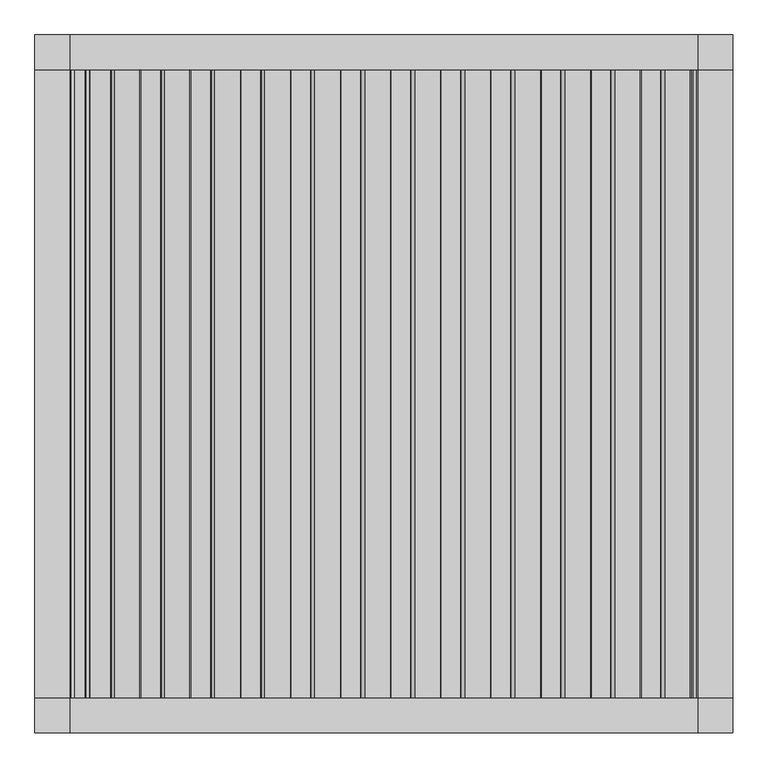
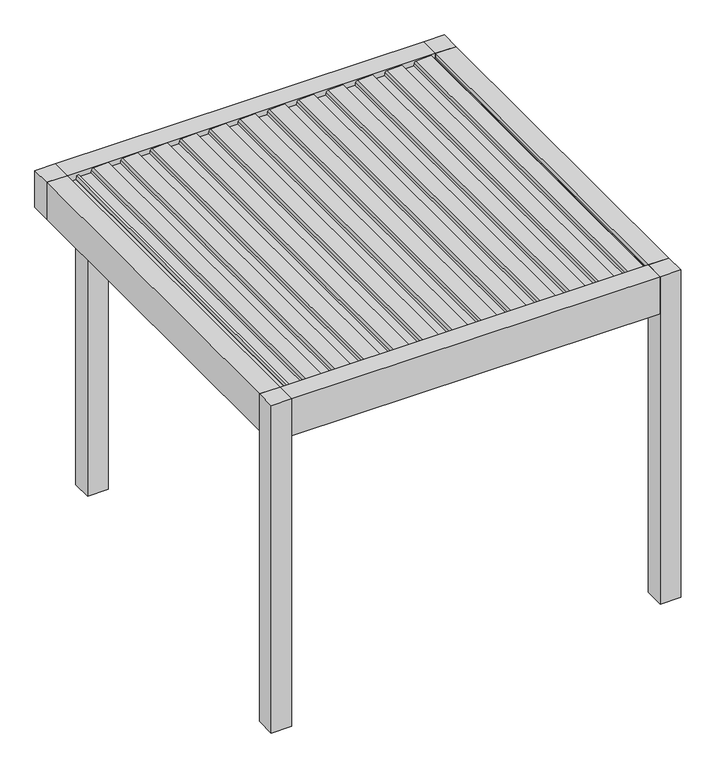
"""IFC4 building model written with IfcOpenShell, lengths in millimetres: proxy geometry, Renson_Amani_Patio_Cover : Renson_Amani_Patio_Cover."""

from ifc_helpers import new_model, si_unit, point, frame, frame_2d, origin, origin_with_axes, place, context, project, spatial, polyline, circle_curve, trimmed, segment, composite_curve, outline, extrude, source, transform, mapped, element, save


def generic_models_adf1df4a(model_context):
    return source(origin(), model_context, "Body", "SweptSolid", [
        extrude(outline(composite_curve([segment(polyline([(2483.35, 1073.7289238), (2511.01198, 1076.1490335), (2512.3970364, 1104.984284), (2531.8911096, 1101.5469529), (2526.6075693, 991.549838)]), True, "CONTINUOUS"), segment(trimmed(circle_curve(frame_2d((2511.6248435, 992.26951)), 15.0), [point((2526.6075693, 991.549838))], [point((2514.2295662, 977.4973937))], False, "CARTESIAN"), True, "CONTINUOUS"), segment(polyline([(2514.2295662, 977.4973937), (2495.0, 974.1067023), (2495.0, 886.3709263), (2512.0788237, 883.3594689), (2511.3450182, 868.0824984), (2483.35, 865.6332517), (2483.35, 1073.7289238)]), True, "CONTINUOUS")], self_intersect=False)), frame((0.0, -1350.0, 0.0), z_axis=(0.0, 1.0, 0.0), x_axis=(0.0, 0.0, 1.0)), (0.0, 0.0, 1.0), 2700.0),
        extrude(outline(composite_curve([segment(polyline([(2483.35, 858.7132078), (2511.01198, 861.1333174), (2512.3970364, 889.9685679), (2531.8911096, 886.5312368), (2526.6075693, 776.534122)]), True, "CONTINUOUS"), segment(trimmed(circle_curve(frame_2d((2511.6248435, 777.2537939)), 15.0), [point((2526.6075693, 776.534122))], [point((2514.2295662, 762.4816776))], False, "CARTESIAN"), True, "CONTINUOUS"), segment(polyline([(2514.2295662, 762.4816776), (2495.0, 759.0909863), (2495.0, 671.3552102), (2512.0788237, 668.3437528), (2511.3450182, 653.0667824), (2483.35, 650.6175356), (2483.35, 858.7132078)]), True, "CONTINUOUS")], self_intersect=False)), frame((0.0, -1350.0, 0.0), z_axis=(0.0, 1.0, 0.0), x_axis=(0.0, 0.0, 1.0)), (0.0, 0.0, 1.0), 2700.0),
        extrude(outline(composite_curve([segment(polyline([(2483.35, 643.6974917), (2511.01198, 646.1176014), (2512.3970364, 674.9528519), (2531.8911096, 671.5155208), (2526.6075693, 561.5184059)]), True, "CONTINUOUS"), segment(trimmed(circle_curve(frame_2d((2511.6248435, 562.2380779)), 15.0), [point((2526.6075693, 561.5184059))], [point((2514.2295662, 547.4659616))], False, "CARTESIAN"), True, "CONTINUOUS"), segment(polyline([(2514.2295662, 547.4659616), (2495.0, 544.0752702), (2495.0, 456.3394942), (2512.0788237, 453.3280368), (2511.3450182, 438.0510663), (2483.35, 435.6018196), (2483.35, 643.6974917)]), True, "CONTINUOUS")], self_intersect=False)), frame((0.0, -1350.0, 0.0), z_axis=(0.0, 1.0, 0.0), x_axis=(0.0, 0.0, 1.0)), (0.0, 0.0, 1.0), 2700.0),
        extrude(outline(composite_curve([segment(polyline([(2483.35, 428.6817757), (2511.01198, 431.1018854), (2512.3970364, 459.9371358), (2531.8911096, 456.4998047), (2526.6075693, 346.5026899)]), True, "CONTINUOUS"), segment(trimmed(circle_curve(frame_2d((2511.6248435, 347.2223618)), 15.0), [point((2526.6075693, 346.5026899))], [point((2514.2295662, 332.4502455))], False, "CARTESIAN"), True, "CONTINUOUS"), segment(polyline([(2514.2295662, 332.4502455), (2495.0, 329.0595542), (2495.0, 241.3237782), (2512.0788237, 238.3123207), (2511.3450182, 223.0353503), (2483.35, 220.5861035), (2483.35, 428.6817757)]), True, "CONTINUOUS")], self_intersect=False)), frame((0.0, -1350.0, 0.0), z_axis=(0.0, 1.0, 0.0), x_axis=(0.0, 0.0, 1.0)), (0.0, 0.0, 1.0), 2700.0),
        extrude(outline(composite_curve([segment(polyline([(2483.35, 213.6660597), (2511.01198, 216.0861693), (2512.3970364, 244.9214198), (2531.8911096, 241.4840887), (2526.6075693, 131.4869738)]), True, "CONTINUOUS"), segment(trimmed(circle_curve(frame_2d((2511.6248435, 132.2066458)), 15.0), [point((2526.6075693, 131.4869738))], [point((2514.2295662, 117.4345295))], False, "CARTESIAN"), True, "CONTINUOUS"), segment(polyline([(2514.2295662, 117.4345295), (2495.0, 114.0438381), (2495.0, 26.3080621), (2512.0788237, 23.2966047), (2511.3450182, 8.0196342), (2483.35, 5.5703875), (2483.35, 213.6660597)]), True, "CONTINUOUS")], self_intersect=False)), frame((0.0, -1350.0, 0.0), z_axis=(0.0, 1.0, 0.0), x_axis=(0.0, 0.0, 1.0)), (0.0, 0.0, 1.0), 2700.0),
        extrude(outline(composite_curve([segment(polyline([(2483.35, -1.3496564), (2511.01198, 1.0704533), (2512.3970364, 29.9057037), (2531.8911096, 26.4683726), (2526.6075693, -83.5287422)]), True, "CONTINUOUS"), segment(trimmed(circle_curve(frame_2d((2511.6248435, -82.8090703)), 15.0), [point((2526.6075693, -83.5287422))], [point((2514.2295662, -97.5811866))], False, "CARTESIAN"), True, "CONTINUOUS"), segment(polyline([(2514.2295662, -97.5811866), (2495.0, -100.9718779), (2495.0, -188.7076539), (2512.0788237, -191.7191114), (2511.3450182, -206.9960818), (2483.35, -209.4453286), (2483.35, -1.3496564)]), True, "CONTINUOUS")], self_intersect=False)), frame((0.0, -1350.0, 0.0), z_axis=(0.0, 1.0, 0.0), x_axis=(0.0, 0.0, 1.0)), (0.0, 0.0, 1.0), 2700.0),
        extrude(outline(composite_curve([segment(polyline([(2483.35, -216.3653724), (2511.01198, -213.9452628), (2512.3970364, -185.1100123), (2531.8911096, -188.5473434), (2526.6075693, -298.5444582)]), True, "CONTINUOUS"), segment(trimmed(circle_curve(frame_2d((2511.6248435, -297.8247863)), 15.0), [point((2526.6075693, -298.5444582))], [point((2514.2295662, -312.5969026))], False, "CARTESIAN"), True, "CONTINUOUS"), segment(polyline([(2514.2295662, -312.5969026), (2495.0, -315.987594), (2495.0, -403.72337), (2512.0788237, -406.7348274), (2511.3450182, -422.0117979), (2483.35, -424.4610446), (2483.35, -216.3653724)]), True, "CONTINUOUS")], self_intersect=False)), frame((0.0, -1350.0, 0.0), z_axis=(0.0, 1.0, 0.0), x_axis=(0.0, 0.0, 1.0)), (0.0, 0.0, 1.0), 2700.0),
        extrude(outline(composite_curve([segment(polyline([(2483.35, -431.3810885), (2511.01198, -428.9609788), (2512.3970364, -400.1257284), (2531.8911096, -403.5630594), (2526.6075693, -513.5601743)]), True, "CONTINUOUS"), segment(trimmed(circle_curve(frame_2d((2511.6248435, -512.8405024)), 15.0), [point((2526.6075693, -513.5601743))], [point((2514.2295662, -527.6126187))], False, "CARTESIAN"), True, "CONTINUOUS"), segment(polyline([(2514.2295662, -527.6126187), (2495.0, -531.00331), (2495.0, -618.739086), (2512.0788237, -621.7505434), (2511.3450182, -637.0275139), (2483.35, -639.4767606), (2483.35, -431.3810885)]), True, "CONTINUOUS")], self_intersect=False)), frame((0.0, -1350.0, 0.0), z_axis=(0.0, 1.0, 0.0), x_axis=(0.0, 0.0, 1.0)), (0.0, 0.0, 1.0), 2700.0),
        extrude(outline(composite_curve([segment(polyline([(2483.35, -646.3968045), (2511.01198, -643.9766949), (2512.3970364, -615.1414444), (2531.8911096, -618.5787755), (2526.6075693, -728.5758903)]), True, "CONTINUOUS"), segment(trimmed(circle_curve(frame_2d((2511.6248435, -727.8562184)), 15.0), [point((2526.6075693, -728.5758903))], [point((2514.2295662, -742.6283347))], False, "CARTESIAN"), True, "CONTINUOUS"), segment(polyline([(2514.2295662, -742.6283347), (2495.0, -746.019026), (2495.0, -833.7548021), (2512.0788237, -836.7662595), (2511.3450182, -852.04323), (2483.35, -854.4924767), (2483.35, -646.3968045)]), True, "CONTINUOUS")], self_intersect=False)), frame((0.0, -1350.0, 0.0), z_axis=(0.0, 1.0, 0.0), x_axis=(0.0, 0.0, 1.0)), (0.0, 0.0, 1.0), 2700.0),
        extrude(outline(composite_curve([segment(polyline([(2483.35, -861.4125206), (2511.01198, -858.9924109), (2512.3970364, -830.1571605), (2531.8911096, -833.5944915), (2526.6075693, -943.5916064)]), True, "CONTINUOUS"), segment(trimmed(circle_curve(frame_2d((2511.6248435, -942.8719345)), 15.0), [point((2526.6075693, -943.5916064))], [point((2514.2295662, -957.6440508))], False, "CARTESIAN"), True, "CONTINUOUS"), segment(polyline([(2514.2295662, -957.6440508), (2495.0, -961.0347421), (2495.0, -1048.7705181), (2512.0788237, -1051.7819755), (2511.3450182, -1067.058946), (2483.35, -1069.5081927), (2483.35, -861.4125206)]), True, "CONTINUOUS")], self_intersect=False)), frame((0.0, -1350.0, 0.0), z_axis=(0.0, 1.0, 0.0), x_axis=(0.0, 0.0, 1.0)), (0.0, 0.0, 1.0), 2700.0),
        extrude(outline(composite_curve([segment(polyline([(2483.35, 1288.7446399), (2511.01198, 1291.1647495), (2512.3970364, 1320.0), (2531.8911096, 1316.5626689), (2526.6075693, 1206.5655541)]), True, "CONTINUOUS"), segment(trimmed(circle_curve(frame_2d((2511.6248435, 1207.285226)), 15.0), [point((2526.6075693, 1206.5655541))], [point((2514.2295662, 1192.5131097))], False, "CARTESIAN"), True, "CONTINUOUS"), segment(polyline([(2514.2295662, 1192.5131097), (2495.0, 1189.1224184), (2495.0, 1101.3866423), (2512.0788237, 1098.3751849), (2511.3450182, 1083.0982144), (2483.35, 1080.6489677), (2483.35, 1288.7446399)]), True, "CONTINUOUS")], self_intersect=False)), frame((0.0, -1350.0, 0.0), z_axis=(0.0, 1.0, 0.0), x_axis=(0.0, 0.0, 1.0)), (0.0, 0.0, 1.0), 2700.0),
        extrude(outline(composite_curve([segment(polyline([(2483.35, -1076.4282366), (2511.01198, -1074.008127), (2512.3970364, -1045.1728765), (2531.8911096, -1048.6102076), (2526.6075693, -1158.6073224)]), True, "CONTINUOUS"), segment(trimmed(circle_curve(frame_2d((2511.6248435, -1157.8876505)), 15.0), [point((2526.6075693, -1158.6073224))], [point((2514.2295662, -1172.6597668))], False, "CARTESIAN"), True, "CONTINUOUS"), segment(polyline([(2514.2295662, -1172.6597668), (2495.0, -1176.0504581), (2495.0, -1263.7862342), (2512.0788237, -1266.7976916), (2511.3450182, -1282.0746621), (2483.35, -1284.5239088), (2483.35, -1076.4282366)]), True, "CONTINUOUS")], self_intersect=False)), frame((0.0, -1350.0, 0.0), z_axis=(0.0, 1.0, 0.0), x_axis=(0.0, 0.0, 1.0)), (0.0, 0.0, 1.0), 2700.0),
        extrude(outline(polyline([(1200.0, 1500.0), (1200.0, 1350.0), (1050.0, 1350.0), (1050.0, 1500.0), (1200.0, 1500.0)])), origin_with_axes(), (0.0, 0.0, 1.0), 2250.0),
        extrude(outline(polyline([(1500.0, 1500.0), (1500.0, 1350.0), (1350.0, 1350.0), (1350.0, 1500.0), (1500.0, 1500.0)])), frame((0.0, 0.0, 2250.0), z_axis=(0.0, 0.0, 1.0), x_axis=(1.0, 0.0, 0.0)), (0.0, 0.0, 1.0), 285.0),
        extrude(outline(polyline([(-1350.0, 1500.0), (-1350.0, 1350.0), (-1500.0, 1350.0), (-1500.0, 1500.0), (-1350.0, 1500.0)])), frame((0.0, 0.0, 2250.0), z_axis=(0.0, 0.0, 1.0), x_axis=(1.0, 0.0, 0.0)), (0.0, 0.0, 1.0), 285.0),
        extrude(outline(polyline([(1500.0, -1350.0), (1500.0, -1500.0), (1350.0, -1500.0), (1350.0, -1350.0), (1500.0, -1350.0)])), origin_with_axes(), (0.0, 0.0, 1.0), 2535.0),
        extrude(outline(polyline([(-1050.0, 1500.0), (-1050.0, 1350.0), (-1200.0, 1350.0), (-1200.0, 1500.0), (-1050.0, 1500.0)])), origin_with_axes(), (0.0, 0.0, 1.0), 2250.0),
        extrude(outline(polyline([(-1350.0, -1350.0), (-1350.0, -1500.0), (-1500.0, -1500.0), (-1500.0, -1350.0), (-1350.0, -1350.0)])), origin_with_axes(), (0.0, 0.0, 1.0), 2535.0),
        extrude(outline(polyline([(2466.6559373, -1350.0), (2466.6559373, -1290.0), (2480.6555802, -1286.2487113), (2480.6555802, -1329.5940945), (2496.400763, -1345.0), (2504.2449277, -1345.0), (2504.6823598, -1350.0), (2466.6559373, -1350.0)])), frame((0.0, -1350.0, 0.0), z_axis=(0.0, 1.0, 0.0), x_axis=(0.0, 0.0, 1.0)), (0.0, 0.0, 1.0), 2700.0),
        extrude(outline(polyline([(-1350.0, -1350.0), (-1500.0, -1350.0), (-1500.0, 1350.0), (-1350.0, 1350.0), (-1350.0, -1350.0)])), frame((0.0, 0.0, 2250.0), z_axis=(0.0, 0.0, 1.0), x_axis=(1.0, 0.0, 0.0)), (0.0, 0.0, 1.0), 285.0),
        extrude(outline(polyline([(2535.0, 1500.0), (2535.0, 1350.0), (2504.6904658, 1350.0), (2504.2449277, 1345.0), (2496.400763, 1345.0), (2480.6555802, 1329.2544156), (2480.6555802, 1319.9090324), (2466.6559373, 1323.6603211), (2466.6559373, 1350.0), (2250.0, 1350.0), (2250.0, 1500.0), (2535.0, 1500.0)])), frame((0.0, -1350.0, 0.0), z_axis=(0.0, 1.0, 0.0), x_axis=(0.0, 0.0, 1.0)), (0.0, 0.0, 1.0), 2700.0),
        extrude(outline(polyline([(-1350.0, 2535.0), (-1350.0, 2322.0), (-1280.0000001, 2322.0), (-1280.0000001, 2250.0), (-1500.0, 2250.0), (-1500.0, 2535.0), (-1350.0, 2535.0)])), frame((-1350.0, 0.0, 0.0), z_axis=(1.0, 0.0, 0.0), x_axis=(0.0, 1.0, 0.0)), (0.0, 0.0, 1.0), 2700.0),
        extrude(outline(polyline([(1500.0, 2250.0), (1280.0000001, 2250.0), (1280.0000001, 2322.0), (1350.0, 2322.0), (1350.0, 2535.0), (1500.0, 2535.0), (1500.0, 2250.0)])), frame((-1350.0, 0.0, 0.0), z_axis=(1.0, 0.0, 0.0), x_axis=(0.0, 1.0, 0.0)), (0.0, 0.0, 1.0), 2700.0),
    ])


if __name__ == "__main__":
    model = new_model("IFC4")
    model_context = context("Model", 3, world=origin())
    ifc_project = project(units=[si_unit("LENGTHUNIT", "METRE", prefix="MILLI")], contexts=[model_context])
    site = spatial("IfcSite", under=ifc_project)
    building = spatial("IfcBuilding", under=site)
    placement = place(None, origin())
    generic_models_shape = generic_models_adf1df4a(model_context)
    element("IfcBuildingElementProxy", 1, Name="Renson_Amani_Patio_Cover : Renson_Amani_Patio_Cover", ObjectType="Renson_Amani_Patio_Cover : Renson_Amani_Patio_Cover", at=placement, inside=building, context=model_context, shape_type="MappedRepresentation", body=[
        mapped(generic_models_shape, transform((0.0, 0.0, 0.0), x_axis=(1.0, 0.0, 0.0), y_axis=(0.0, 1.0, 0.0), z_axis=(0.0, 0.0, 1.0))),
    ])
    save(model, "model.ifc")
